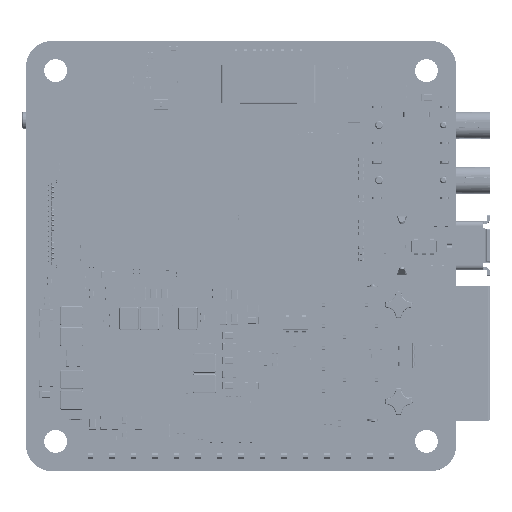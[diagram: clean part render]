
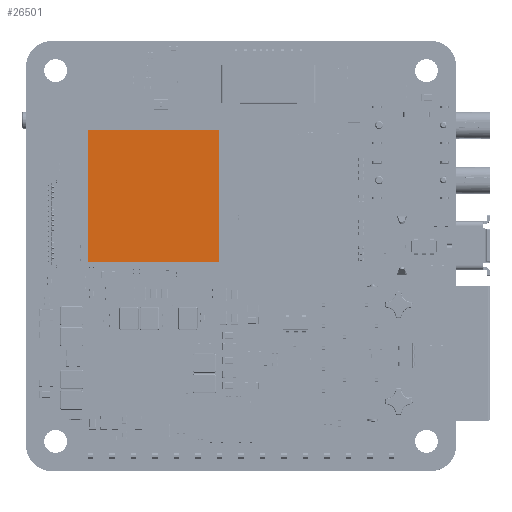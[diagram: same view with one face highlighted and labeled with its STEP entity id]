
A CAD part, top view. The second image highlights one B-rep face of the part: STEP entity #26501.
In plain terms, the highlighted planar face has unit normal (0, 0, 1).
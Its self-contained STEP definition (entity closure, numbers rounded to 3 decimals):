
#26386=DIRECTION('',(1.,0.,0.));
#26387=VECTOR('',#26386,15.5);
#26388=CARTESIAN_POINT('',(-7.75,-7.75,1.05));
#26389=LINE('',#26388,#26387);
#26390=DIRECTION('',(0.,-1.,0.));
#26391=VECTOR('',#26390,15.5);
#26392=CARTESIAN_POINT('',(-7.75,7.75,1.05));
#26393=LINE('',#26392,#26391);
#26394=DIRECTION('',(-1.,0.,0.));
#26395=VECTOR('',#26394,15.5);
#26396=CARTESIAN_POINT('',(7.75,7.75,1.05));
#26397=LINE('',#26396,#26395);
#26398=DIRECTION('',(0.,1.,0.));
#26399=VECTOR('',#26398,15.5);
#26400=CARTESIAN_POINT('',(7.75,-7.75,1.05));
#26401=LINE('',#26400,#26399);
#26410=CARTESIAN_POINT('',(-7.75,-7.75,1.05));
#26411=CARTESIAN_POINT('',(7.75,-7.75,1.05));
#26412=VERTEX_POINT('',#26410);
#26413=VERTEX_POINT('',#26411);
#26414=CARTESIAN_POINT('',(7.75,7.75,1.05));
#26415=VERTEX_POINT('',#26414);
#26416=CARTESIAN_POINT('',(-7.75,7.75,1.05));
#26417=VERTEX_POINT('',#26416);
#26490=CARTESIAN_POINT('',(0.,0.,1.05));
#26491=DIRECTION('',(0.,0.,1.));
#26492=DIRECTION('',(1.,0.,0.));
#26493=AXIS2_PLACEMENT_3D('',#26490,#26491,#26492);
#26494=PLANE('',#26493);
#26495=ORIENTED_EDGE('',*,*,#26442,.F.);
#26496=ORIENTED_EDGE('',*,*,#26457,.F.);
#26497=ORIENTED_EDGE('',*,*,#26471,.F.);
#26498=ORIENTED_EDGE('',*,*,#26484,.F.);
#26499=EDGE_LOOP('',(#26495,#26496,#26497,#26498));
#26500=FACE_OUTER_BOUND('',#26499,.F.);
#26501=ADVANCED_FACE('',(#26500),#26494,.T.);
#26442=EDGE_CURVE('',#26412,#26413,#26389,.T.);
#26457=EDGE_CURVE('',#26417,#26412,#26393,.T.);
#26471=EDGE_CURVE('',#26415,#26417,#26397,.T.);
#26484=EDGE_CURVE('',#26413,#26415,#26401,.T.);
